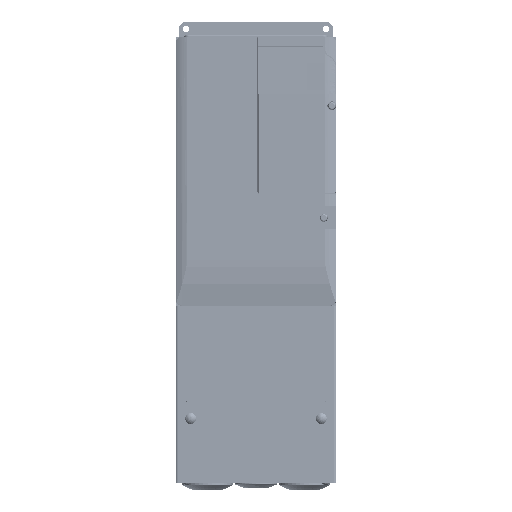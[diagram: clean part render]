
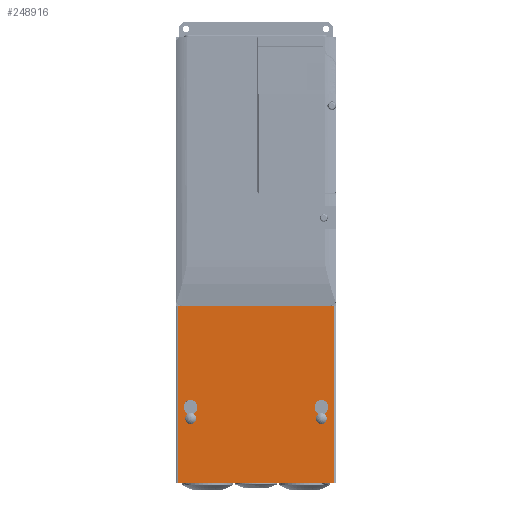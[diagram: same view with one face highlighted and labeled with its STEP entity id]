
A CAD part, top view. The second image highlights one B-rep face of the part: STEP entity #248916.
In plain terms, the highlighted planar face has unit normal (0, 0, 1) as drawn and (0, 1, 0) by its records, which use the part's own axes.
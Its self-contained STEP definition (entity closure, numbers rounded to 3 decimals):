
#248481=DIRECTION('',(-1.,0.,0.));
#248482=VECTOR('',#248481,135.8);
#248483=CARTESIAN_POINT('',(67.9,0.,0.));
#248484=LINE('',#248483,#248482);
#248485=DIRECTION('',(1.,0.,0.));
#248486=VECTOR('',#248485,135.8);
#248487=CARTESIAN_POINT('',(-67.9,0.,-154.));
#248488=LINE('',#248487,#248486);
#248489=CARTESIAN_POINT('',(56.9,0.,-66.));
#248490=DIRECTION('',(0.,1.,0.));
#248491=DIRECTION('',(0.5,0.,0.866));
#248492=AXIS2_PLACEMENT_3D('',#248489,#248490,#248491);
#248494=CARTESIAN_POINT('',(56.9,0.,-66.));
#248495=DIRECTION('',(0.,1.,0.));
#248496=DIRECTION('',(-0.5,0.,-0.866));
#248497=AXIS2_PLACEMENT_3D('',#248494,#248495,#248496);
#248499=DIRECTION('',(0.,0.,1.));
#248500=VECTOR('',#248499,4.804);
#248501=CARTESIAN_POINT('',(53.9,0.,-60.804));
#248502=LINE('',#248501,#248500);
#248503=CARTESIAN_POINT('',(56.9,0.,-56.));
#248504=DIRECTION('',(0.,1.,0.));
#248505=DIRECTION('',(-1.,0.,0.));
#248506=AXIS2_PLACEMENT_3D('',#248503,#248504,#248505);
#248508=DIRECTION('',(0.,0.,-1.));
#248509=VECTOR('',#248508,4.804);
#248510=CARTESIAN_POINT('',(59.9,0.,-56.));
#248511=LINE('',#248510,#248509);
#248512=DIRECTION('',(0.,0.,-1.));
#248513=VECTOR('',#248512,4.804);
#248514=CARTESIAN_POINT('',(-53.9,0.,-56.));
#248515=LINE('',#248514,#248513);
#248516=CARTESIAN_POINT('',(-56.9,0.,-66.));
#248517=DIRECTION('',(0.,1.,0.));
#248518=DIRECTION('',(0.5,0.,0.866));
#248519=AXIS2_PLACEMENT_3D('',#248516,#248517,#248518);
#248521=CARTESIAN_POINT('',(-56.9,0.,-66.));
#248522=DIRECTION('',(0.,1.,0.));
#248523=DIRECTION('',(-0.5,0.,-0.866));
#248524=AXIS2_PLACEMENT_3D('',#248521,#248522,#248523);
#248526=DIRECTION('',(0.,0.,1.));
#248527=VECTOR('',#248526,4.804);
#248528=CARTESIAN_POINT('',(-59.9,0.,-60.804));
#248529=LINE('',#248528,#248527);
#248530=CARTESIAN_POINT('',(-56.9,0.,-56.));
#248531=DIRECTION('',(0.,1.,0.));
#248532=DIRECTION('',(-1.,0.,0.));
#248533=AXIS2_PLACEMENT_3D('',#248530,#248531,#248532);
#248539=DIRECTION('',(0.,0.,-1.));
#248540=VECTOR('',#248539,154.);
#248541=CARTESIAN_POINT('',(67.9,0.,0.));
#248542=LINE('',#248541,#248540);
#248591=DIRECTION('',(0.,0.,1.));
#248592=VECTOR('',#248591,154.);
#248593=CARTESIAN_POINT('',(-67.9,0.,-154.));
#248594=LINE('',#248593,#248592);
#248789=CARTESIAN_POINT('',(67.9,0.,0.));
#248790=CARTESIAN_POINT('',(67.9,0.,-154.));
#248791=VERTEX_POINT('',#248789);
#248792=VERTEX_POINT('',#248790);
#248793=CARTESIAN_POINT('',(-67.9,0.,0.));
#248794=VERTEX_POINT('',#248793);
#248795=CARTESIAN_POINT('',(-67.9,0.,-154.));
#248796=VERTEX_POINT('',#248795);
#248797=CARTESIAN_POINT('',(59.9,0.,-60.804));
#248798=CARTESIAN_POINT('',(53.9,0.,-71.196));
#248799=VERTEX_POINT('',#248797);
#248800=VERTEX_POINT('',#248798);
#248801=CARTESIAN_POINT('',(53.9,0.,-60.804));
#248802=VERTEX_POINT('',#248801);
#248803=CARTESIAN_POINT('',(53.9,0.,-56.));
#248804=VERTEX_POINT('',#248803);
#248805=CARTESIAN_POINT('',(59.9,0.,-56.));
#248806=VERTEX_POINT('',#248805);
#248807=CARTESIAN_POINT('',(-53.9,0.,-56.));
#248808=CARTESIAN_POINT('',(-53.9,0.,-60.804));
#248809=VERTEX_POINT('',#248807);
#248810=VERTEX_POINT('',#248808);
#248811=CARTESIAN_POINT('',(-59.9,0.,-71.196));
#248812=VERTEX_POINT('',#248811);
#248813=CARTESIAN_POINT('',(-59.9,0.,-60.804));
#248814=VERTEX_POINT('',#248813);
#248815=CARTESIAN_POINT('',(-59.9,0.,-56.));
#248816=VERTEX_POINT('',#248815);
#248877=CARTESIAN_POINT('',(0.,0.,0.));
#248878=DIRECTION('',(0.,1.,0.));
#248879=DIRECTION('',(1.,0.,0.));
#248880=AXIS2_PLACEMENT_3D('',#248877,#248878,#248879);
#248881=PLANE('',#248880);
#248883=ORIENTED_EDGE('',*,*,#248882,.F.);
#248885=ORIENTED_EDGE('',*,*,#248884,.T.);
#248887=ORIENTED_EDGE('',*,*,#248886,.F.);
#248889=ORIENTED_EDGE('',*,*,#248888,.T.);
#248890=EDGE_LOOP('',(#248883,#248885,#248887,#248889));
#248891=FACE_OUTER_BOUND('',#248890,.F.);
#248893=ORIENTED_EDGE('',*,*,#248892,.T.);
#248895=ORIENTED_EDGE('',*,*,#248894,.T.);
#248897=ORIENTED_EDGE('',*,*,#248896,.T.);
#248899=ORIENTED_EDGE('',*,*,#248898,.T.);
#248901=ORIENTED_EDGE('',*,*,#248900,.T.);
#248902=EDGE_LOOP('',(#248893,#248895,#248897,#248899,#248901));
#248903=FACE_BOUND('',#248902,.F.);
#248905=ORIENTED_EDGE('',*,*,#248904,.T.);
#248907=ORIENTED_EDGE('',*,*,#248906,.T.);
#248909=ORIENTED_EDGE('',*,*,#248908,.T.);
#248911=ORIENTED_EDGE('',*,*,#248910,.T.);
#248913=ORIENTED_EDGE('',*,*,#248912,.T.);
#248914=EDGE_LOOP('',(#248905,#248907,#248909,#248911,#248913));
#248915=FACE_BOUND('',#248914,.F.);
#248916=ADVANCED_FACE('',(#248891,#248903,#248915),#248881,.T.);
#248493=CIRCLE('',#248492,6.);
#248498=CIRCLE('',#248497,6.);
#248507=CIRCLE('',#248506,3.);
#248520=CIRCLE('',#248519,6.);
#248525=CIRCLE('',#248524,6.);
#248534=CIRCLE('',#248533,3.);
#248882=EDGE_CURVE('',#248791,#248792,#248542,.T.);
#248884=EDGE_CURVE('',#248791,#248794,#248484,.T.);
#248886=EDGE_CURVE('',#248796,#248794,#248594,.T.);
#248888=EDGE_CURVE('',#248796,#248792,#248488,.T.);
#248892=EDGE_CURVE('',#248799,#248800,#248493,.T.);
#248894=EDGE_CURVE('',#248800,#248802,#248498,.T.);
#248896=EDGE_CURVE('',#248802,#248804,#248502,.T.);
#248898=EDGE_CURVE('',#248804,#248806,#248507,.T.);
#248900=EDGE_CURVE('',#248806,#248799,#248511,.T.);
#248904=EDGE_CURVE('',#248809,#248810,#248515,.T.);
#248906=EDGE_CURVE('',#248810,#248812,#248520,.T.);
#248908=EDGE_CURVE('',#248812,#248814,#248525,.T.);
#248910=EDGE_CURVE('',#248814,#248816,#248529,.T.);
#248912=EDGE_CURVE('',#248816,#248809,#248534,.T.);
